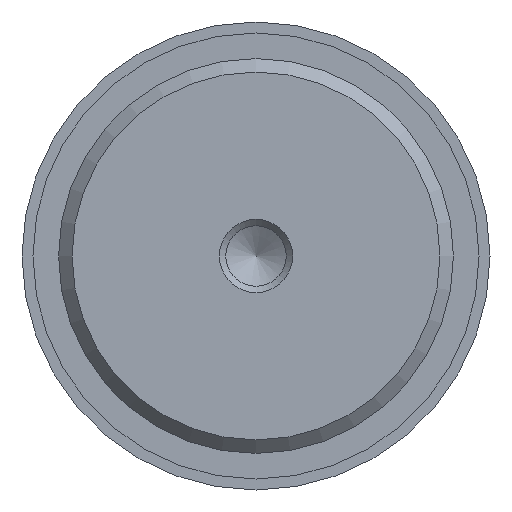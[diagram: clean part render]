
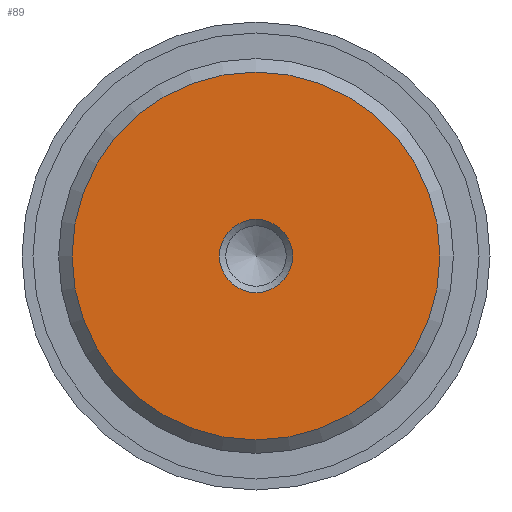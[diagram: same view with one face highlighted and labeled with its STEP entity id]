
A CAD part, front view. The second image highlights one B-rep face of the part: STEP entity #89.
In plain terms, the highlighted planar face has unit normal (0, -1, 0).
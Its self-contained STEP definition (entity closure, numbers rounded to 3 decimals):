
#89 = ADVANCED_FACE( '', ( #173, #174 ), #175, .F. );
#173 = FACE_BOUND( '', #312, .T. );
#174 = FACE_OUTER_BOUND( '', #313, .T. );
#175 = PLANE( '', #314 );
#312 = EDGE_LOOP( '', ( #539 ) );
#313 = EDGE_LOOP( '', ( #540 ) );
#314 = AXIS2_PLACEMENT_3D( '', #541, #542, #543 );
#539 = ORIENTED_EDGE( '', *, *, #948, .F. );
#540 = ORIENTED_EDGE( '', *, *, #952, .T. );
#541 = CARTESIAN_POINT( '', ( 12.58, 0., 0. ) );
#542 = DIRECTION( '', ( 0., 1., 0. ) );
#543 = DIRECTION( '', ( 0., 0., 1. ) );
#948 = EDGE_CURVE( '', #1136, #1136, #1137, .T. );
#952 = EDGE_CURVE( '', #1142, #1142, #1143, .T. );
#1136 = VERTEX_POINT( '', #1468 );
#1137 = CIRCLE( '', #1469, 2.5 );
#1142 = VERTEX_POINT( '', #1474 );
#1143 = CIRCLE( '', #1475, 12.58 );
#1468 = CARTESIAN_POINT( '', ( 2.5, 0., 0. ) );
#1469 = AXIS2_PLACEMENT_3D( '', #1751, #1752, #1753 );
#1474 = CARTESIAN_POINT( '', ( 0., 0., -12.58 ) );
#1475 = AXIS2_PLACEMENT_3D( '', #1760, #1761, #1762 );
#1751 = CARTESIAN_POINT( '', ( 0., 0., 0. ) );
#1752 = DIRECTION( '', ( 0., -1., 0. ) );
#1753 = DIRECTION( '', ( 1., 0., 0. ) );
#1760 = CARTESIAN_POINT( '', ( 0., 0., 0. ) );
#1761 = DIRECTION( '', ( 0., -1., 0. ) );
#1762 = DIRECTION( '', ( 0., 0., -1. ) );
